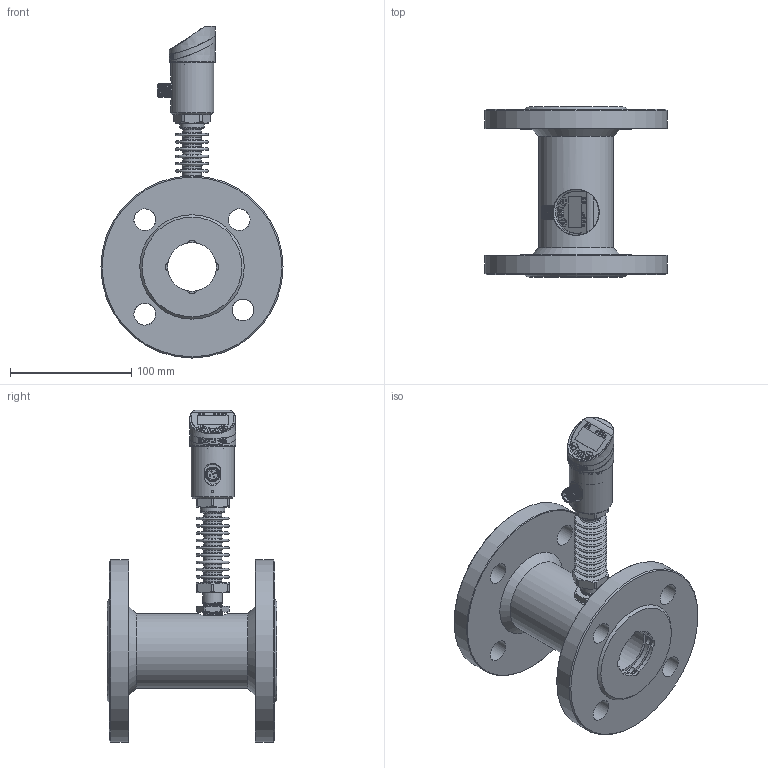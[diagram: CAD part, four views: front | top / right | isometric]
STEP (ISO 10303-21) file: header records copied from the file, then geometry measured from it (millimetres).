
FILE_DESCRIPTION( (''), '2;1');
FILE_NAME( 'QTKE_DN40_flange_high-temp.step', '2024-10-14T15:48:39+08:00', (''), (''), '', '', '');
FILE_SCHEMA (('AUTOMOTIVE_DESIGN { 1 0 10303 214 3 1 1 1 }'));
Length unit declared in the file: millimetre
Products named in the file (1): QTKE DN40_flange_high-temp
Bounding box: 150 x 140 x 273.5 mm (x, y, z)
Volume: 732754.6 mm3; surface area: 163555.8 mm2
Topology: 5 solids, 5 shells, 1040 faces, 2660 edges, 1731 vertices
Faces by surface type: plane 410, cylinder 214, extrusion 160, cone 116, torus 60, bspline 59, sphere 21
Full cylindrical faces by diameter (mm): 1.689 x1, 2 x1, 2.7 x6, 3.5 x5, 12 x1, 13 x1, 15 x10, 15.9 x1, 16.5 x1, 18 x8, 20 x1, 23 x3, 26 x5, 31.7 x1, 32 x1, 34 x1, 34.2 x1, 35.5 x2, 40 x1, 45 x4, 61.5 x1, 150 x2
Entity records: 45671 total; most frequent: CARTESIAN_POINT 17678, ORIENTED_EDGE 4890, DIRECTION 4386, EDGE_CURVE 2445, VERTEX_POINT 1667, AXIS2_PLACEMENT_3D 1597, EDGE_LOOP 1318, VECTOR 1192
